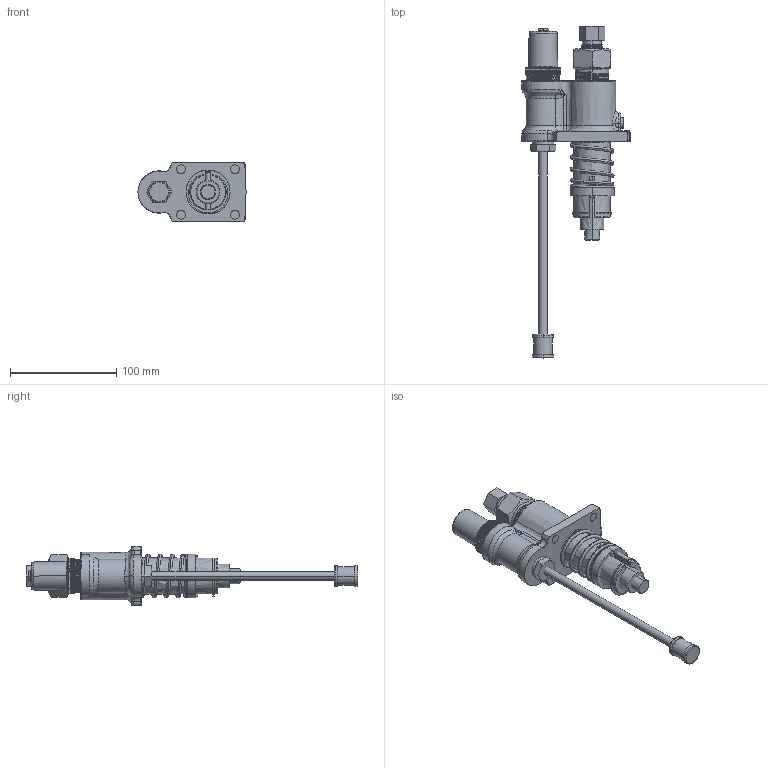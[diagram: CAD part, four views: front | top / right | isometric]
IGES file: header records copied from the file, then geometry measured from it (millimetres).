
Start section:  PTC IGES file: 562951-en-l.igs
Global section: file name: 562951-en-l.igs; native system: Creo Parametric by PTC Inc.; preprocessor: 2019030; author: qusrh3; organization: Unknown; date: 20200305.090250; units: inch
Bounding box: 101.57 x 311.96 x 56.01 mm (x, y, z)
Surface area: 75970 mm2 (no closed solid volume)
Topology: 0 solids, 0 shells, 618 faces, 3467 edges, 3467 vertices
Faces by surface type: bspline 329, revolution 289
